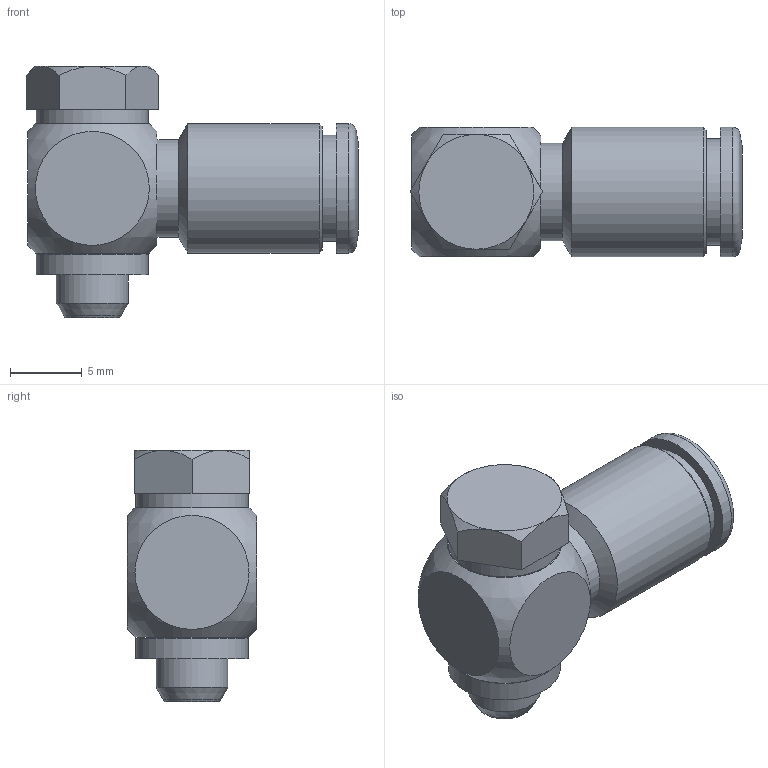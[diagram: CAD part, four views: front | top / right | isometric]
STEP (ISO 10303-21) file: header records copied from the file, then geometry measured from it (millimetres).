
FILE_DESCRIPTION(('Bauteilbeschreibung','HiCAD-Model','HiCAD-STEP-TRANSLATION','Bauteilbeschreibung'),'2;1');
FILE_NAME('B:/ABGLEICH/ZEICHNUNGEN/STEP FÜR INTERNET/STEP/S11201_IPSO_017_4_M5.STP','2011-08-26T12:23:47+00:00',('Konstrukteur'),('Konstrukteur Firma GmbH'),' HiCAD neXt 2008, Step 3.1.1401.2J ','HiCAD neXt 2008','confidential');
FILE_SCHEMA(('AUTOMOTIVE_DESIGN { 1 2 10303 214 0 1 1 1 }'));
Length unit declared in the file: millimetre
Products named in the file (8): S11201_IPSO_017_4_M5; A00031; A4101; A41010; DIN 13_M5; A00041; DR4_1_NEU; R201201_N
Assembly tree (7 placements, depth 3):
  S11201_IPSO_017_4_M5
    A00031
    A4101
    A41010
      DIN 13_M5
    A00041
    DR4_1_NEU
    R201201_N
Bounding box: 23.12 x 9 x 17.5 mm (x, y, z)
Volume: 1373.3 mm3; surface area: 2335.2 mm2
Topology: 6 solids, 6 shells, 92 faces, 196 edges, 125 vertices
Faces by surface type: plane 36, cylinder 30, cone 24, torus 1, sphere 1
Full cylindrical faces by diameter (mm): 1.5 x2, 2 x1, 3 x1, 4 x1, 4.019 x2, 4.1 x2, 5 x3, 5.1 x2, 5.2 x1, 5.4 x1, 5.5 x1, 6.4 x1, 6.8 x1, 7.3 x1, 7.4 x1, 7.6 x1, 7.8 x2, 9 x2
Entity records: 6195 total; most frequent: CARTESIAN_POINT 3691, DIRECTION 404, ORIENTED_EDGE 246, AXIS2_PLACEMENT_3D 192, EDGE_LOOP 168, COLOUR_RGB 124, PRESENTATION_STYLE_ASSIGNMENT 124, EDGE_CURVE 123
